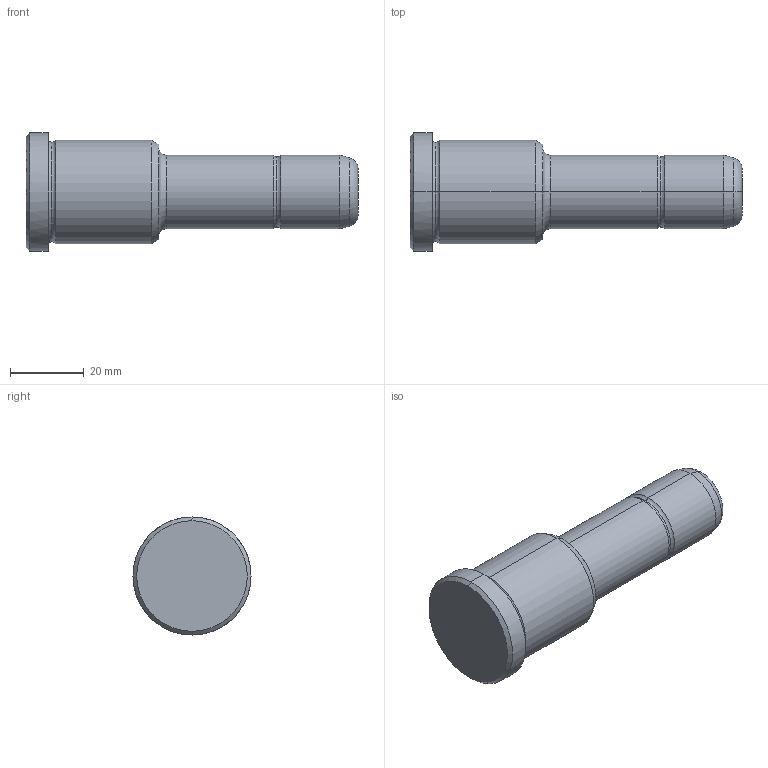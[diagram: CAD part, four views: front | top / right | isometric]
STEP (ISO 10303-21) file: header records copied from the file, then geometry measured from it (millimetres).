
FILE_DESCRIPTION(('CATIA V5 STEP Exchange'),'2;1');
FILE_NAME('C:\Users\Utente\Desktop\IO LAVORO\3D X SITO CF\X SITO\PLASTICA\351\351-20X36X90.stp','2021-08-27T12:26:08+00:00',('none'),('none'),'CATIA Version 5 Release 20 GA (IN-10)','CATIA V5 STEP AP203','none');
FILE_SCHEMA(('CONFIG_CONTROL_DESIGN'));
Length unit declared in the file: millimetre
Products named in the file (1): 351-20X36X90
Bounding box: 90 x 32 x 32 mm (x, y, z)
Volume: 39813.4 mm3; surface area: 7962.4 mm2
Topology: 1 solids, 1 shells, 30 faces, 86 edges, 60 vertices
Faces by surface type: torus 12, cylinder 8, cone 6, plane 4
Entity records: 1112 total; most frequent: CARTESIAN_POINT 289, ORIENTED_EDGE 172, DIRECTION 138, AXIS2_PLACEMENT_3D 95, EDGE_CURVE 86, CIRCLE 64, VERTEX_POINT 60, EDGE_LOOP 32
